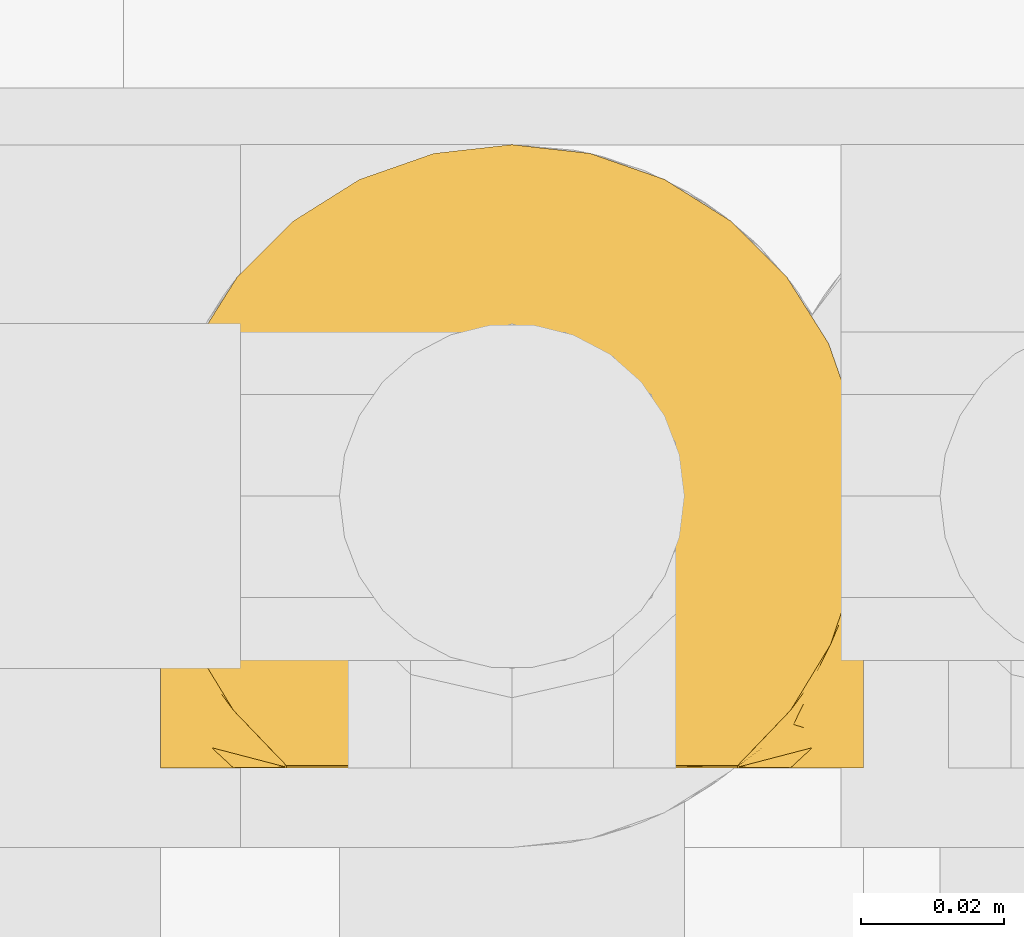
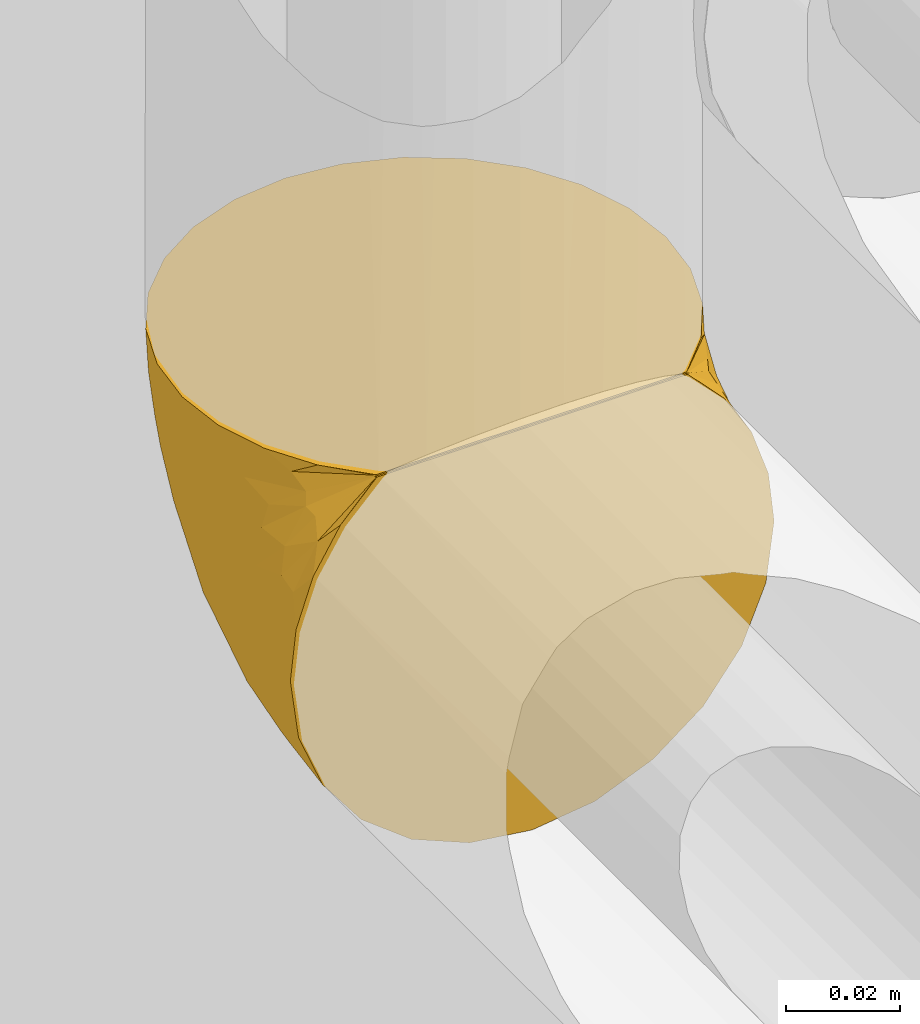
# One storey, part 53 of 94: 1 covering.
"""IFC2X3 building model written with IfcOpenShell, lengths in millimetres."""

import ifcopenshell
import ifcopenshell.guid

model = None  # the IFC model being written
_history = None  # IfcOwnerHistory: only IFC2X3 demands one
_inside = {}  # id of a spatial element -> (the spatial element, [elements in it])
_under = {}  # id of a project, library or spatial element -> (it, [spatial elements below it])
_declared = {}  # id of a project -> (the project, [libraries it declares])
_typed = {}  # id of a type object -> (the type object, [elements of that type])
_made_of = {}  # id of a material, layer set ... -> (it, [elements and type objects made of it])


def new_model(schema):
    """Start an empty IFC model of exactly this schema.

    Asked for "IFC4X3", IfcOpenShell would pick the latest addendum, in which some entities
    have other attributes; the version numbers below select the first issue.
    IFC2X3 requires an IfcOwnerHistory on every rooted entity: one is made here for all.
    """
    global model, _history
    if schema == "IFC4X3":
        model = ifcopenshell.file(schema_version=(4, 3, 0, 0))
    else:
        model = ifcopenshell.file(schema=schema)
    _inside.clear()
    _under.clear()
    _declared.clear()
    _typed.clear()
    _made_of.clear()
    _history = None
    if model.schema == "IFC2X3":
        org = make("IfcOrganization", Name="unknown")
        user = make(
            "IfcPersonAndOrganization",
            ThePerson=make("IfcPerson", FamilyName="unknown"),
            TheOrganization=org,
        )
        app = make(
            "IfcApplication",
            ApplicationDeveloper=org,
            Version="unknown",
            ApplicationFullName="unknown",
            ApplicationIdentifier="unknown",
        )
        _history = make(
            "IfcOwnerHistory",
            OwningUser=user,
            OwningApplication=app,
            ChangeAction="ADDED",
            CreationDate=0,
        )
    return model


def make(cls, **values):
    """One entity of the class cls with the attributes given. An attribute that is None is left unset."""
    return model.create_entity(
        cls, **{name: value for name, value in values.items() if value is not None}
    )


def entity(cls, *values):
    """Any entity or typed value of the class cls, its attributes in the order of the schema. None: left unset."""
    e = model.create_entity(cls)
    for i, value in enumerate(values):
        if value is not None:
            e[i] = value
    return e


def rooted(cls, **values):
    """An entity with a GlobalId (a new one), such as an element, a storey or a relation."""
    return make(cls, GlobalId=ifcopenshell.guid.new(), OwnerHistory=_history, **values)


def si_unit(unit_type, name, prefix=None):
    """IfcSIUnit, for example si_unit("LENGTHUNIT", "METRE", prefix="MILLI")."""
    return make("IfcSIUnit", UnitType=unit_type, Prefix=prefix, Name=name)


def converted_unit(unit_type, name, factor, base, dimensions=None, offset=None):
    """IfcConversionBasedUnit, such as the inch: factor (a typed value) times the base unit."""
    return make(
        "IfcConversionBasedUnit"
        if offset is None
        else "IfcConversionBasedUnitWithOffset",
        ConversionOffset=offset,
        Dimensions=None
        if dimensions is None
        else entity("IfcDimensionalExponents", *dimensions),
        UnitType=unit_type,
        Name=name,
        ConversionFactor=make(
            "IfcMeasureWithUnit", ValueComponent=factor, UnitComponent=base
        ),
    )


def derived_unit(unit_type, elements):
    """IfcDerivedUnit: a product of units, each with its exponent."""
    return make(
        "IfcDerivedUnit",
        Elements=[
            make("IfcDerivedUnitElement", Unit=unit, Exponent=power)
            for unit, power in elements
        ],
        UnitType=unit_type,
    )


def assignment(units):
    """IfcUnitAssignment: the units of a project."""
    return None if units is None else make("IfcUnitAssignment", Units=units)


def point(xyz):
    """IfcCartesianPoint."""
    return None if xyz is None else make("IfcCartesianPoint", Coordinates=xyz)


def direction(xyz):
    """IfcDirection."""
    return None if xyz is None else make("IfcDirection", DirectionRatios=xyz)


def frame(location, z_axis=None, x_axis=None):
    """IfcAxis2Placement3D, a coordinate frame: its origin and axes. An axis left out is left unset."""
    return make(
        "IfcAxis2Placement3D",
        Location=point(location),
        Axis=direction(z_axis),
        RefDirection=direction(x_axis),
    )


def origin():
    """The frame at (0, 0, 0) with its axes left unset."""
    return frame((0.0, 0.0, 0.0))


def place(relative_to, where):
    """IfcLocalPlacement: puts the frame where relative to a parent placement (None: the world)."""
    return make(
        "IfcLocalPlacement", PlacementRelTo=relative_to, RelativePlacement=where
    )


def context(
    kind, dimensions, precision=None, world=None, true_north=None, identifier=None
):
    """IfcGeometricRepresentationContext, for example the 3D "Model" context."""
    return make(
        "IfcGeometricRepresentationContext",
        ContextIdentifier=identifier,
        ContextType=kind,
        CoordinateSpaceDimension=dimensions,
        Precision=precision,
        WorldCoordinateSystem=world,
        TrueNorth=true_north,
    )


def subcontext(parent, identifier, kind, view, scale=None):
    """IfcGeometricRepresentationSubContext, for example "Body" below "Model"."""
    return make(
        "IfcGeometricRepresentationSubContext",
        ContextIdentifier=identifier,
        ContextType=kind,
        ParentContext=parent,
        TargetScale=scale,
        TargetView=view,
    )


def project(units=None, contexts=None):
    """IfcProject with its units and contexts."""
    return rooted(
        "IfcProject",
        Name="project",
        RepresentationContexts=contexts,
        UnitsInContext=assignment(units),
    )


def spatial(cls, under=None, at=None, **own):
    """A site, building, storey or space (cls), placed at a placement, below another one or the project."""
    s = rooted(cls, ObjectPlacement=at, **own)
    if under is not None:
        _under.setdefault(under.id(), (under, []))[1].append(s)
    return s


def faces_of(points, faces, orient=None, outer=None):
    """IfcFace entities. A face is a list of loops; a loop is a list of indices into points, from 0.

    orient and outer hold one flag for each loop. By default every Orientation is true, the
    first loop of a face is its IfcFaceOuterBound and the others are IfcFaceBound.
    """
    made = []
    for i, loops in enumerate(faces):
        bounds = []
        for j, loop in enumerate(loops):
            is_outer = j == 0 if outer is None else outer[i][j]
            bounds.append(
                make(
                    "IfcFaceOuterBound" if is_outer else "IfcFaceBound",
                    Bound=make("IfcPolyLoop", Polygon=[points[k] for k in loop]),
                    Orientation=True if orient is None else orient[i][j],
                )
            )
        made.append(make("IfcFace", Bounds=bounds))
    return made


def faceted_brep(points, faces, orient=None, outer=None, voids=None):
    """IfcFacetedBrep: a solid bounded by flat faces; with voids (closed shells), ...WithVoids."""
    shared = [point(p) for p in points]
    hull = make("IfcClosedShell", CfsFaces=faces_of(shared, faces, orient, outer))
    if voids is None:
        return make("IfcFacetedBrep", Outer=hull)
    return make(
        "IfcFacetedBrepWithVoids",
        Outer=hull,
        Voids=[
            make(cls, CfsFaces=faces_of(shared, fs, o, b)) for cls, fs, o, b in voids
        ],
    )


def shape(context_of_items, identifier, shape_type, items):
    """IfcShapeRepresentation: the items that make up one representation, for example the "Body"."""
    return make(
        "IfcShapeRepresentation",
        ContextOfItems=context_of_items,
        RepresentationIdentifier=identifier,
        RepresentationType=shape_type,
        Items=items,
    )


def material(Name=None, Category=None):
    """IfcMaterial."""
    return make("IfcMaterial", Name=Name, Category=Category)


def made_of(thing, what):
    """Note that an element or type object is made of a material, layer set ...; save() writes the relation."""
    if what is not None:
        _made_of.setdefault(what.id(), (what, []))[1].append(thing)
    return thing


def element(
    cls,
    number,
    at=None,
    inside=None,
    cuts=None,
    type_object=None,
    material=None,
    context=None,
    identifier="Body",
    shape_type=None,
    held_by="IfcProductDefinitionShape",
    body=None,
    shapes=None,
    **own,
):
    """One element of the class cls, such as IfcWall. Its Tag is "e" and its number.

    at: its placement. inside: the storey or other place that contains it. cuts: it is an
    opening in that element (IfcRelVoidsElement). A single representation is given by context,
    identifier, shape_type and body (its items); several are given by shapes. held_by: the class
    of the entity that holds the representations. save() writes the other relations.
    """
    e = rooted(cls, Tag="e%d" % number, ObjectPlacement=at, **own)
    if body is not None:
        shapes = [shape(context, identifier, shape_type, body)]
    if shapes is not None:
        e.Representation = make(held_by, Representations=shapes)
    if inside is not None:
        _inside.setdefault(inside.id(), (inside, []))[1].append(e)
    if cuts is not None:
        rooted(
            "IfcRelVoidsElement", RelatingBuildingElement=cuts, RelatedOpeningElement=e
        )
    if type_object is not None:
        _typed.setdefault(type_object.id(), (type_object, []))[1].append(e)
    return made_of(e, material)


def aggregate(whole, parts):
    """IfcRelAggregates: a whole, such as a stair, and the parts it consists of."""
    return rooted("IfcRelAggregates", RelatingObject=whole, RelatedObjects=parts)


def save(model, path):
    """Write the relations noted so far, then the file.

    IfcRelAggregates (storeys below a building ...), IfcRelContainedInSpatialStructure (elements
    in a storey), IfcRelDefinesByType, IfcRelAssociatesMaterial and IfcRelDeclares: one each for
    every whole, place, type object, material and project.
    """
    for whole, parts in _under.values():
        aggregate(whole, parts)
    for where, things in _inside.values():
        rooted(
            "IfcRelContainedInSpatialStructure",
            RelatedElements=things,
            RelatingStructure=where,
        )
    for kind, things in _typed.values():
        rooted("IfcRelDefinesByType", RelatedObjects=things, RelatingType=kind)
    for what, things in _made_of.values():
        rooted("IfcRelAssociatesMaterial", RelatedObjects=things, RelatingMaterial=what)
    for by, libraries in _declared.values():
        rooted("IfcRelDeclares", RelatingContext=by, RelatedDefinitions=libraries)
    model.write(path)


model = new_model("IFC2X3")

# Units and contexts
model_context = context("Model", 3, precision=0.01, world=origin(), true_north=direction((6.123031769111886e-17, 1.0)))
body_context = subcontext(model_context, "Body", "Model", "MODEL_VIEW")
ifc_project = project(units=[si_unit("LENGTHUNIT", "METRE", prefix="MILLI"), si_unit("AREAUNIT", "SQUARE_METRE"), si_unit("VOLUMEUNIT", "CUBIC_METRE"), converted_unit("PLANEANGLEUNIT", "DEGREE", entity("IfcRatioMeasure", 0.017453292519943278), si_unit("PLANEANGLEUNIT", "RADIAN"), dimensions=[0, 0, 0, 0, 0, 0, 0]), si_unit("MASSUNIT", "GRAM", prefix="KILO"), derived_unit("MASSDENSITYUNIT", [(si_unit("MASSUNIT", "GRAM", prefix="KILO"), 1), (si_unit("LENGTHUNIT", "METRE"), -3)]), derived_unit("IONCONCENTRATIONUNIT", [(si_unit("MASSUNIT", "GRAM", prefix="KILO"), 1), (si_unit("LENGTHUNIT", "METRE"), -3)]), derived_unit("MOMENTOFINERTIAUNIT", [(si_unit("LENGTHUNIT", "METRE"), 4)]), si_unit("TIMEUNIT", "SECOND"), si_unit("FREQUENCYUNIT", "HERTZ"), si_unit("THERMODYNAMICTEMPERATUREUNIT", "DEGREE_CELSIUS"), derived_unit("THERMALTRANSMITTANCEUNIT", [(si_unit("MASSUNIT", "GRAM", prefix="KILO"), 1), (si_unit("THERMODYNAMICTEMPERATUREUNIT", "KELVIN"), -1), (si_unit("TIMEUNIT", "SECOND"), -3)]), derived_unit("THERMALCONDUCTANCEUNIT", [(si_unit("MASSUNIT", "GRAM", prefix="KILO"), 1), (si_unit("THERMODYNAMICTEMPERATUREUNIT", "KELVIN"), -1), (si_unit("TIMEUNIT", "SECOND"), -3), (si_unit("LENGTHUNIT", "METRE"), 1)]), derived_unit("VOLUMETRICFLOWRATEUNIT", [(si_unit("LENGTHUNIT", "METRE"), 3), (si_unit("TIMEUNIT", "SECOND"), -1)]), derived_unit("MASSFLOWRATEUNIT", [(si_unit("MASSUNIT", "GRAM", prefix="KILO"), 1), (si_unit("TIMEUNIT", "SECOND"), -1)]), derived_unit("ROTATIONALFREQUENCYUNIT", [(si_unit("TIMEUNIT", "SECOND"), -1)]), si_unit("ELECTRICCURRENTUNIT", "AMPERE"), si_unit("ELECTRICVOLTAGEUNIT", "VOLT"), si_unit("POWERUNIT", "WATT"), si_unit("FORCEUNIT", "NEWTON", prefix="KILO"), si_unit("ILLUMINANCEUNIT", "LUX"), si_unit("LUMINOUSFLUXUNIT", "LUMEN"), si_unit("LUMINOUSINTENSITYUNIT", "CANDELA"), derived_unit("USERDEFINED", [(si_unit("MASSUNIT", "GRAM", prefix="KILO"), -1), (si_unit("LENGTHUNIT", "METRE"), -2), (si_unit("TIMEUNIT", "SECOND"), 3), (si_unit("LUMINOUSFLUXUNIT", "LUMEN"), 1)]), derived_unit("USERDEFINED", [(si_unit("MASSUNIT", "GRAM", prefix="KILO"), 1), (si_unit("TIMEUNIT", "SECOND"), -3), (si_unit("LENGTHUNIT", "METRE"), 3), (si_unit("ELECTRICCURRENTUNIT", "AMPERE"), -2)]), derived_unit("SOUNDPOWERUNIT", [(si_unit("MASSUNIT", "GRAM", prefix="KILO"), 1), (si_unit("TIMEUNIT", "SECOND"), -3), (si_unit("LENGTHUNIT", "METRE"), 2)]), derived_unit("SOUNDPRESSUREUNIT", [(si_unit("MASSUNIT", "GRAM", prefix="KILO"), 1), (si_unit("LENGTHUNIT", "METRE"), -1), (si_unit("TIMEUNIT", "SECOND"), -2)]), derived_unit("LINEARVELOCITYUNIT", [(si_unit("LENGTHUNIT", "METRE"), 1), (si_unit("TIMEUNIT", "SECOND"), -1)]), si_unit("PRESSUREUNIT", "PASCAL"), derived_unit("USERDEFINED", [(si_unit("MASSUNIT", "GRAM", prefix="KILO"), 1), (si_unit("LENGTHUNIT", "METRE"), -2), (si_unit("TIMEUNIT", "SECOND"), -2)]), derived_unit("LINEARFORCEUNIT", [(si_unit("MASSUNIT", "GRAM", prefix="KILO"), 1), (si_unit("TIMEUNIT", "SECOND"), -2)]), derived_unit("PLANARFORCEUNIT", [(si_unit("MASSUNIT", "GRAM", prefix="KILO"), 1), (si_unit("LENGTHUNIT", "METRE"), -1), (si_unit("TIMEUNIT", "SECOND"), -2)]), derived_unit("SPECIFICHEATCAPACITYUNIT", [(si_unit("THERMODYNAMICTEMPERATUREUNIT", "KELVIN"), -1), (si_unit("LENGTHUNIT", "METRE"), 2), (si_unit("TIMEUNIT", "SECOND"), -2)]), derived_unit("HEATINGVALUEUNIT", [(si_unit("LENGTHUNIT", "METRE"), 2), (si_unit("TIMEUNIT", "SECOND"), -2)]), derived_unit("VAPORPERMEABILITYUNIT", [(si_unit("LENGTHUNIT", "METRE"), -1), (si_unit("TIMEUNIT", "SECOND"), 1)]), derived_unit("DYNAMICVISCOSITYUNIT", [(si_unit("MASSUNIT", "GRAM", prefix="KILO"), 1), (si_unit("TIMEUNIT", "SECOND"), -1), (si_unit("LENGTHUNIT", "METRE"), -1)]), derived_unit("THERMALEXPANSIONCOEFFICIENTUNIT", [(si_unit("THERMODYNAMICTEMPERATUREUNIT", "KELVIN"), -1)]), derived_unit("MODULUSOFELASTICITYUNIT", [(si_unit("MASSUNIT", "GRAM", prefix="KILO"), 1), (si_unit("LENGTHUNIT", "METRE"), -1), (si_unit("TIMEUNIT", "SECOND"), -2)]), derived_unit("ISOTHERMALMOISTURECAPACITYUNIT", [(si_unit("LENGTHUNIT", "METRE"), 3), (si_unit("MASSUNIT", "GRAM", prefix="KILO"), -1)]), derived_unit("MOISTUREDIFFUSIVITYUNIT", [(si_unit("TIMEUNIT", "SECOND"), -1), (si_unit("LENGTHUNIT", "METRE"), 2)])], contexts=[model_context])

# Site, building, storey
site_placement = place(None, origin())
site = spatial("IfcSite", under=ifc_project, at=site_placement, Name="Default", CompositionType="ELEMENT")
building_placement = place(site_placement, origin())
building = spatial("IfcBuilding", under=site, at=building_placement, CompositionType="ELEMENT")
storey_placement = place(building_placement, origin())
storey = spatial("IfcBuildingStorey", under=building, at=storey_placement, Name="Niveau 0", CompositionType="ELEMENT", Elevation=0.0)

# Covering
ifc_material = material(Name="Isolation - Laine minérale")
covering_placement = place(storey_placement, frame((-7061.485954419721, 9987.250352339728, 448.25472776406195)))
element("IfcCovering", 1, at=covering_placement, inside=storey, material=ifc_material, Name="Isolation des canalisations:Laine minérale", ObjectType="Isolation des canalisations:Laine minérale", PredefinedType="INSULATION", context=body_context, shape_type="Brep", body=[
    faceted_brep([(19.19437336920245, 1.908891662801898, 88.74527223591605), (21.638642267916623, 1.908891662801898, 88.74527223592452), (23.415694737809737, 1.908891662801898, 88.74527223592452), (25.192747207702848, 1.908891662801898, 88.74527223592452), (26.692340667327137, 1.908891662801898, 88.74527223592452), (28.191934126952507, 1.908891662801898, 88.74527223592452), (31.191121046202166, 1.908891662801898, 88.74527223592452), (34.19030796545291, 1.908891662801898, 88.74527223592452), (37.18949488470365, 1.908891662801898, 88.74527223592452), (40.18868180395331, 1.908891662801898, 88.74527223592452), (41.688275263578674, 1.908891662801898, 88.74527223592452), (43.18786872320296, 1.908891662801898, 88.74527223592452), (45.63213762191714, 1.908891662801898, 88.74527223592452), (48.07640652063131, 1.908891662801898, 88.74527223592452), (50.52067541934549, 1.908891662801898, 88.74527223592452), (52.96494431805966, 1.908891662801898, 88.74527223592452), (55.40921321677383, 1.908891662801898, 88.74527223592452), (57.853482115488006, 1.908891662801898, 88.74527223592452), (60.29775101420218, 1.908891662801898, 88.74527223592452), (62.742019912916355, 1.908891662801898, 88.74527223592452), (65.18628881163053, 1.908891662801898, 88.74527223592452), (67.6305577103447, 1.908891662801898, 88.74527223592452), (70.07482660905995, 1.908891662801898, 88.74527223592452), (72.51909550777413, 1.908891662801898, 88.74527223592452), (74.96336440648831, 1.908891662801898, 88.74527223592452), (77.4076333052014, 1.908891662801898, 88.74527223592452), (79.85190220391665, 1.908891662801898, 88.74527223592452), (82.29617110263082, 1.908891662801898, 88.74527223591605), (89.71827412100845, 9.648191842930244, 88.74527223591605), (95.2836857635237, 18.809406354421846, 88.74527223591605), (98.73008326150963, 28.95664399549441, 88.74527223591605), (99.8952722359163, 39.59527223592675, 88.74527223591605), (98.66173151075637, 50.53764083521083, 88.74527223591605), (95.02415814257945, 60.928409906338, 88.74527223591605), (89.1663101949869, 70.24729243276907, 88.74527223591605), (81.38263886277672, 78.02799613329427, 88.74527223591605), (72.06354573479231, 83.88131648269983, 88.74527223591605), (61.67593083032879, 87.51440414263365, 88.74527223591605), (50.74527223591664, 88.74527223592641, 88.74527223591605), (39.802903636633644, 87.51173151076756, 88.74527223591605), (29.412134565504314, 83.87415814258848, 88.74527223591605), (20.093252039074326, 78.0163101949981, 88.74527223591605), (12.312548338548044, 70.23263886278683, 88.74527223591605), (6.459227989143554, 60.91354573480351, 88.74527223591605), (2.8261403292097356, 50.52593083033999, 88.74527223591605), (1.5952722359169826, 39.59527223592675, 88.74527223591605), (2.765001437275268, 28.936186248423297, 88.74527223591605), (6.216868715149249, 18.787971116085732, 88.74527223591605), (11.785042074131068, 9.631578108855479, 88.74527223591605), (19.19437336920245, 1.5952722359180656, 88.43165280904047), (11.777056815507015, 1.5952722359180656, 80.69858068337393), (6.211862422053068, 1.5952722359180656, 71.54185633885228), (2.763298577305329, 1.5952722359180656, 61.39669016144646), (1.5952722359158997, 1.5952722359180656, 50.74527223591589), (3.2700178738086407, 1.5952722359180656, 38.024316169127), (8.180123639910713, 1.5952722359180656, 26.17027223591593), (15.990973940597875, 1.5952722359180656, 15.99097394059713), (26.17027223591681, 1.5952722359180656, 8.180123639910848), (38.0243161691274, 1.5952722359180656, 3.270017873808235), (50.74527223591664, 1.5952722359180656, 1.5952722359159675), (63.46622830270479, 1.5952722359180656, 3.270017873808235), (75.32027223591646, 1.5952722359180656, 8.180123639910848), (85.4995705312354, 1.5952722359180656, 15.99097394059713), (93.31042083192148, 1.5952722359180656, 26.17027223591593), (98.22052659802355, 1.5952722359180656, 38.024316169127), (99.8952722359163, 1.5952722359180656, 50.74527223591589), (98.72724589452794, 1.5952722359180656, 61.39669016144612), (95.2786820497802, 1.5952722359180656, 71.54185633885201), (89.71348765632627, 1.5952722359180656, 80.69858068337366), (82.29617110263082, 1.5952722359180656, 88.43165280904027), (79.85190220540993, 1.5952722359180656, 88.43165280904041), (78.35230874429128, 1.5952722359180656, 88.43165280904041), (76.38037756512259, 1.5952722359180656, 88.43165280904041), (74.40844638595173, 1.5952722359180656, 88.43165280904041), (72.43651520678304, 1.5952722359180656, 88.43165280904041), (70.46458402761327, 1.5952722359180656, 88.43165280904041), (68.4926528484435, 1.5952722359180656, 88.43165280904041), (66.52072166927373, 1.5952722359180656, 88.43165280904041), (64.54879049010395, 1.5952722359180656, 88.43165280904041), (62.57685931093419, 1.5952722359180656, 88.43165280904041), (60.60492813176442, 1.5952722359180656, 88.43165280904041), (58.632996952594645, 1.5952722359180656, 88.43165280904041), (56.66106577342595, 1.5952722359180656, 88.43165280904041), (54.6891345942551, 1.5952722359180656, 88.43165280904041), (52.71720341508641, 1.5952722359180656, 88.43165280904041), (50.74527223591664, 1.5952722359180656, 88.43165280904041), (48.773341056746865, 1.5952722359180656, 88.43165280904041), (46.80140987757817, 1.5952722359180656, 88.43165280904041), (44.82947869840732, 1.5952722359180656, 88.43165280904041), (42.85754751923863, 1.5952722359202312, 88.43165280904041), (40.88561634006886, 1.5952722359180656, 88.43165280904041), (38.913685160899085, 1.5952722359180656, 88.43165280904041), (36.94175398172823, 1.5952722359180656, 88.43165280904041), (34.96982280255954, 1.5952722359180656, 88.43165280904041), (31.970635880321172, 1.5952722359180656, 88.43165280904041), (28.971448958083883, 1.5952722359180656, 88.43165280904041), (26.527180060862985, 1.5952722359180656, 88.43165280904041), (24.082911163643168, 1.5952722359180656, 88.43165280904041), (21.63864226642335, 1.5952722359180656, 88.43165280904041), (53.7533397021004, 1.8096432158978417, 88.51635690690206), (51.832765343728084, 1.818436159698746, 88.52492022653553), (61.47290163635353, 1.8193226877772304, 88.52582169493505), (63.56282540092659, 1.8127644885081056, 88.51932032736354), (48.00102702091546, 1.7996191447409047, 88.50736577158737), (77.2499939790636, 1.8054799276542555, 88.51252801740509), (80.6991383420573, 1.8492387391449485, 88.56126636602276), (42.43807145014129, 1.8224415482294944, 88.52905186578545), (22.860776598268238, 1.8170346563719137, 88.52350980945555), (24.700216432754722, 1.815062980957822, 88.5215555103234), (71.37008955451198, 1.824011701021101, 88.53071361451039), (73.40383885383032, 1.8138012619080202, 88.52032288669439), (44.41000264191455, 1.8358544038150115, 88.54408236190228), (37.92771907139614, 1.8108976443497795, 88.51753811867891), (39.81308540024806, 1.8073683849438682, 88.51424763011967), (35.95578792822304, 1.8246911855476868, 88.53144031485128), (49.75930651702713, 1.8114022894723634, 88.51801699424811), (21.027574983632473, 1.814626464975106, 88.52112749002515), (55.67510065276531, 1.803895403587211, 88.51110665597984), (67.50668767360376, 1.803065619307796, 88.51037001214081), (65.61454699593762, 1.8078125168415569, 88.51465616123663), (34.10458092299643, 1.806281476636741, 88.51325446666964), (57.55217518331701, 1.8068444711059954, 88.51376773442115), (79.10210557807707, 1.8170346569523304, 88.52350981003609), (75.39441218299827, 1.8056127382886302, 88.51264803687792), (82.29617110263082, 1.8170346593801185, 88.52350981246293), (82.29617110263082, 1.845664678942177, 88.59262879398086), (82.29617110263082, 1.8742946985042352, 88.66174777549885), (19.19437336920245, 1.8170346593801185, 88.52350981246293), (19.19437336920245, 1.7479156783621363, 88.49487979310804), (19.19437336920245, 1.6787966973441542, 88.46624977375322), (32.212157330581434, 1.8305380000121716, 88.53789054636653), (69.4355922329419, 1.8101196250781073, 88.51680397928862), (46.24828797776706, 1.818076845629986, 88.52455691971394), (59.49061335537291, 1.8158402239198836, 88.52232177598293), (29.419252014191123, 1.8347511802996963, 88.54277043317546), (27.44213716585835, 1.8131030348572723, 88.51964668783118), (82.29617110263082, 1.6787966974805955, 88.46624977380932), (82.29617110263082, 1.7479156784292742, 88.49487979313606), (19.19437336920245, 1.8742946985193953, 88.66174777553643), (19.194373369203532, 1.8456646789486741, 88.59262879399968), (4.210283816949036, 5.119742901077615, 66.8453249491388), (8.74417984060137, 4.404433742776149, 76.59278810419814), (4.210283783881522, 9.262466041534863, 67.93076460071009), (9.955583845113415, 7.20765205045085, 79.77802179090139), (1.5952722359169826, 11.095272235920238, 53.290789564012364), (1.5952722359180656, 9.051642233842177, 52.74320055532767), (1.5952722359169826, 34.504237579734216, 69.74527223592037), (2.935497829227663, 23.945014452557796, 74.32039473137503), (4.213452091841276, 22.400140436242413, 81.07886680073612), (1.5952722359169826, 20.59527223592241, 55.83630689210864), (9.405305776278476, 9.666760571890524, 80.67264697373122), (9.963487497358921, 10.551623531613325, 83.13763204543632), (2.9356418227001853, 16.01945088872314, 66.39579772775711), (4.213452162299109, 23.48583853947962, 85.22115378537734), (8.750654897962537, 13.737180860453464, 85.93765126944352), (5.690627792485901, 10.69142511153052, 72.79903813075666), (1.5952722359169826, 37.59734395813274, 81.28890239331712), (1.5952722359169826, 37.04975490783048, 79.24527223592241), (4.482619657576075, 16.728859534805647, 73.61168502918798), (1.5952722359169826, 27.549754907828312, 62.79078956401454), (5.766057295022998, 16.460659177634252, 78.2689853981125), (2.6117250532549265, 15.0114077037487, 42.71659351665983), (2.6575317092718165, 24.429802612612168, 46.339103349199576), (11.131578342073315, 36.49293031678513, 31.440845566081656), (20.824647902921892, 31.204032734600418, 17.672829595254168), (11.751954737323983, 19.174422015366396, 23.1389879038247), (5.33659242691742, 23.335091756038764, 36.260702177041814), (5.33659286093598, 11.460031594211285, 32.79943692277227), (50.74527223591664, 52.820756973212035, 18.239441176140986), (50.74527223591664, 28.526103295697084, 5.860696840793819), (40.3397395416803, 36.46534309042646, 10.09253095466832), (9.12424327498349, 64.55560047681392, 76.48910815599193), (4.35104531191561, 54.09636170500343, 75.17525932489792), (32.6469542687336, 60.777662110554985, 29.56288601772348), (23.76890934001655, 59.56986252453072, 34.954708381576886), (35.61531809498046, 75.04832177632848, 46.443169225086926), (41.69613385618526, 19.026686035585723, 4.214063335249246), (30.50981773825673, 43.099517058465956, 17.108860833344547), (21.748430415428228, 46.83665143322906, 25.59315874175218), (20.824647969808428, 15.050691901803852, 12.936813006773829), (31.9363827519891, 23.237814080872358, 8.19337466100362), (15.984346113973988, 53.24134352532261, 37.51142897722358), (9.50970334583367, 45.82536759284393, 41.46157905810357), (11.405769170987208, 56.63576814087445, 49.733323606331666), (3.723532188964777, 46.28884977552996, 61.570591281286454), (9.124242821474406, 60.29646320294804, 62.89209880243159), (15.984347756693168, 72.02820629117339, 70.54017915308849), (50.74527223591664, 84.47984763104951, 61.81444117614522), (34.505351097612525, 83.29913826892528, 67.62492254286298), (18.53593481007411, 64.72607481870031, 48.02305876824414), (24.58819413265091, 74.45362859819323, 56.65671676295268), (24.58819389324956, 79.74013519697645, 73.5335710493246), (39.07585882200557, 51.83676030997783, 19.26196392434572), (42.346184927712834, 64.99536385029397, 30.008052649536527), (2.5632520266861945, 37.17704034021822, 56.967223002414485), (50.74527223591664, 72.10110329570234, 37.51978749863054), (4.72244931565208, 37.64584570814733, 46.87511479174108), (69.55416102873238, 32.16465220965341, 11.140369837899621), (59.58510784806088, 18.639631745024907, 4.095656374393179), (59.865425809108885, 35.76621119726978, 9.50247429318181), (66.13789702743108, 47.842493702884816, 17.812384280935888), (69.55416221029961, 15.278189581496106, 6.4665656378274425), (85.49332197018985, 65.81540325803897, 54.54188370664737), (78.98858976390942, 64.55420181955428, 42.32008170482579), (76.8874308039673, 74.46231326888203, 56.65317707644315), (85.49294527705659, 53.25075234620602, 37.502095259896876), (78.28666517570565, 54.6271823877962, 30.584563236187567), (97.13479117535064, 54.1090356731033, 75.17052823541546), (98.9530358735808, 19.80250294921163, 44.78912737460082), (99.8952722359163, 20.59527223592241, 55.83630689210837), (99.8952722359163, 11.095272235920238, 53.290789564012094), (66.97173870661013, 83.30424504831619, 67.62586672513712), (80.66589652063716, 21.099683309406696, 14.26340359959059), (92.35692696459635, 60.310032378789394, 62.88589281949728), (92.35692651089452, 64.57029925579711, 76.486535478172), (89.7385894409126, 13.46514039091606, 21.869885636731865), (96.15395178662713, 16.335810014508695, 33.88211097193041), (79.62483877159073, 41.93007422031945, 22.251999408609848), (89.73859028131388, 27.715013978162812, 26.04782376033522), (59.50815922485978, 59.11976772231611, 24.3292880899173), (68.83452868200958, 60.78019907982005, 29.560349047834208), (99.01263503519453, 10.513874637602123, 42.321432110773), (76.88743104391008, 79.74926997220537, 73.53143463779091), (65.85652255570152, 75.05329716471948, 46.439690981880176), (85.49294363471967, 72.04103767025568, 70.53686254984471), (97.76388503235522, 46.290673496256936, 61.55381762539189), (99.8952722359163, 34.504237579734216, 69.74527223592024), (98.78930951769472, 36.105181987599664, 54.85547791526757), (99.8952722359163, 27.549754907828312, 62.79078956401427), (99.8952722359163, 37.59734395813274, 81.28890239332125), (99.8952722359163, 37.04975490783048, 79.24527223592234), (91.50386042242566, 41.92842909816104, 37.177632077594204), (96.4268312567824, 26.19749743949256, 38.287459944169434), (93.14991945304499, 50.23414181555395, 48.93950707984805), (99.08337182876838, 27.449810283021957, 49.6193224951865), (86.0910755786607, 42.66776613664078, 29.42376899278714), (96.67816905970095, 34.950986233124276, 44.39993285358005), (97.2802602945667, 9.262466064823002, 67.93076584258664), (95.72662397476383, 12.074879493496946, 73.8762902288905), (98.5546584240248, 16.019815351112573, 66.3972519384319), (97.28026045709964, 5.1197430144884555, 66.8453255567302), (92.74636428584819, 4.404433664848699, 76.59278866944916), (91.53641117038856, 7.207972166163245, 79.77567656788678), (90.11275627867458, 7.658564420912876, 82.68391989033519), (97.00519514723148, 16.723480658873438, 73.61706313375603), (91.54965419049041, 10.582773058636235, 83.12402653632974), (97.28427045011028, 22.422090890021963, 81.07735934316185), (97.28427059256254, 23.50719690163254, 85.22095110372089), (92.75147496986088, 13.756054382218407, 85.93466595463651), (98.55441347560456, 23.942836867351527, 74.32191718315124), (95.80583125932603, 17.556718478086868, 79.64839749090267)], [[[0, 1, 2, 3, 4, 5, 6, 7, 8, 9, 10, 11, 12, 13, 14, 15, 16, 17, 18, 19, 20, 21, 22, 23, 24, 25, 26, 27, 28, 29, 30, 31, 32, 33, 34, 35, 36, 37, 38, 39, 40, 41, 42, 43, 44, 45, 46, 47, 48]], [[49, 50, 51, 52, 53, 54, 55, 56, 57, 58, 59, 60, 61, 62, 63, 64, 65, 66, 67, 68, 69, 70, 71, 72, 73, 74, 75, 76, 77, 78, 79, 80, 81, 82, 83, 84, 85, 86, 87, 88, 89, 90, 91, 92, 93, 94, 95, 96, 97, 98]], [[99, 100, 84]], [[101, 102, 19]], [[86, 103, 87]], [[72, 71, 104]], [[105, 70, 69]], [[11, 10, 106]], [[2, 107, 108]], [[109, 74, 110]], [[12, 11, 111]], [[9, 112, 113]], [[108, 97, 96]], [[114, 93, 92]], [[103, 86, 115]], [[97, 107, 98]], [[107, 1, 116]], [[79, 102, 101]], [[99, 117, 16]], [[77, 118, 119]], [[120, 93, 114]], [[112, 91, 113]], [[89, 111, 106]], [[24, 23, 110]], [[107, 97, 108]], [[16, 117, 121]], [[92, 91, 112]], [[21, 119, 118]], [[85, 115, 86]], [[70, 105, 122]], [[72, 123, 73]], [[105, 124, 125, 126, 27]], [[116, 1, 0]], [[122, 71, 70]], [[25, 122, 26]], [[116, 127, 128, 129, 49]], [[110, 123, 24]], [[26, 122, 105]], [[120, 7, 130]], [[8, 114, 112]], [[114, 8, 7]], [[104, 123, 72]], [[92, 112, 114]], [[104, 122, 25]], [[8, 112, 9]], [[110, 73, 123]], [[20, 119, 21]], [[24, 123, 25]], [[75, 74, 109]], [[131, 76, 75]], [[118, 131, 21]], [[109, 110, 23]], [[109, 23, 22]], [[74, 73, 110]], [[123, 104, 25]], [[122, 104, 71]], [[10, 9, 113]], [[113, 90, 106]], [[88, 87, 132]], [[113, 106, 10]], [[77, 76, 118]], [[132, 111, 88]], [[106, 111, 11]], [[132, 12, 111]], [[88, 111, 89]], [[89, 106, 90]], [[113, 91, 90]], [[131, 118, 76]], [[22, 21, 131]], [[119, 20, 102]], [[131, 109, 22]], [[109, 131, 75]], [[79, 78, 102]], [[78, 119, 102]], [[78, 77, 119]], [[121, 81, 133]], [[20, 19, 102]], [[17, 121, 133]], [[80, 79, 101]], [[18, 101, 19]], [[132, 13, 12]], [[81, 80, 133]], [[13, 103, 115]], [[14, 13, 115]], [[87, 103, 132]], [[100, 115, 85]], [[15, 14, 100]], [[115, 100, 14]], [[16, 15, 99]], [[117, 82, 121]], [[100, 85, 84]], [[99, 83, 117]], [[82, 117, 83]], [[17, 16, 121]], [[83, 99, 84]], [[100, 99, 15]], [[18, 17, 133]], [[121, 82, 81]], [[133, 101, 18]], [[101, 133, 80]], [[134, 95, 94]], [[7, 120, 114]], [[132, 103, 13]], [[120, 94, 93]], [[94, 120, 130]], [[98, 107, 116]], [[108, 4, 3, 2]], [[5, 135, 134]], [[4, 135, 5]], [[134, 135, 95]], [[108, 96, 135]], [[108, 135, 4]], [[135, 96, 95]], [[134, 6, 5]], [[130, 6, 134]], [[26, 105, 27]], [[105, 69, 136, 137, 124]], [[98, 116, 49]], [[116, 0, 138, 139, 127]], [[2, 1, 107]], [[94, 130, 134]], [[6, 130, 7]], [[140, 141, 142]], [[143, 129, 128, 127]], [[52, 144, 145, 53]], [[146, 147, 148]], [[142, 149, 144]], [[150, 127, 151]], [[51, 140, 52]], [[142, 152, 149]], [[52, 140, 144]], [[129, 143, 141]], [[47, 46, 153]], [[148, 151, 154]], [[155, 141, 143]], [[151, 138, 154]], [[47, 153, 154]], [[0, 48, 138]], [[46, 45, 156, 157]], [[152, 155, 158]], [[159, 158, 147]], [[157, 148, 153]], [[47, 154, 48]], [[50, 49, 129]], [[50, 129, 141]], [[141, 51, 50]], [[160, 148, 147]], [[146, 148, 157]], [[138, 48, 154]], [[150, 158, 155]], [[151, 127, 139, 138]], [[141, 140, 51]], [[144, 140, 142]], [[157, 153, 46]], [[154, 153, 148]], [[149, 152, 159]], [[160, 147, 158]], [[147, 146, 159]], [[155, 152, 142]], [[159, 152, 158]], [[127, 150, 143]], [[160, 150, 151]], [[150, 160, 158]], [[148, 160, 151]], [[141, 155, 142]], [[155, 143, 150]], [[156, 45, 44]], [[161, 149, 162]], [[163, 164, 165]], [[166, 167, 161]], [[168, 169, 170]], [[55, 165, 56]], [[171, 172, 43]], [[173, 174, 175]], [[58, 176, 59]], [[173, 177, 178]], [[179, 57, 56]], [[55, 167, 165]], [[170, 180, 177]], [[57, 179, 180]], [[167, 55, 54]], [[181, 182, 183]], [[184, 146, 172]], [[172, 185, 184]], [[186, 185, 171]], [[186, 42, 41]], [[172, 146, 157, 156]], [[172, 44, 43]], [[173, 178, 174]], [[39, 187, 188]], [[189, 186, 190]], [[191, 186, 41]], [[175, 190, 188]], [[168, 192, 193]], [[189, 190, 174]], [[57, 180, 58]], [[41, 40, 191]], [[188, 40, 39]], [[39, 38, 187]], [[190, 191, 188]], [[159, 194, 162]], [[175, 187, 195]], [[177, 180, 164]], [[43, 42, 171]], [[176, 180, 170]], [[156, 44, 172]], [[163, 165, 166]], [[179, 165, 164]], [[54, 53, 145]], [[185, 189, 183]], [[184, 196, 194]], [[188, 191, 40]], [[186, 191, 190]], [[186, 171, 42]], [[172, 171, 185]], [[187, 175, 188]], [[193, 175, 195]], [[196, 163, 166]], [[163, 181, 178]], [[162, 166, 161]], [[184, 185, 183]], [[178, 177, 164]], [[177, 192, 170]], [[177, 173, 192]], [[176, 170, 169]], [[59, 176, 169]], [[58, 180, 176]], [[193, 192, 173]], [[168, 170, 192]], [[175, 193, 173]], [[168, 193, 195]], [[163, 178, 164]], [[184, 194, 146]], [[178, 181, 174]], [[189, 174, 181]], [[175, 174, 190]], [[183, 189, 181]], [[186, 189, 185]], [[182, 181, 163]], [[183, 182, 184]], [[163, 196, 182]], [[184, 182, 196]], [[165, 179, 56]], [[180, 179, 164]], [[161, 54, 145]], [[165, 167, 166]], [[54, 161, 167]], [[161, 145, 144, 149]], [[159, 162, 149]], [[196, 166, 162]], [[162, 194, 196]], [[146, 194, 159]], [[197, 198, 199]], [[59, 169, 198]], [[197, 199, 200]], [[198, 197, 201]], [[202, 203, 204]], [[61, 60, 201]], [[205, 206, 203]], [[33, 32, 207]], [[208, 209, 210]], [[187, 37, 211]], [[201, 212, 61]], [[213, 214, 207]], [[62, 215, 63]], [[63, 215, 216]], [[36, 211, 37]], [[217, 218, 212]], [[219, 220, 200]], [[216, 208, 221]], [[36, 35, 222]], [[63, 216, 64]], [[62, 61, 212]], [[211, 36, 222]], [[38, 37, 187]], [[217, 197, 200]], [[203, 223, 204]], [[35, 34, 224]], [[225, 213, 207]], [[204, 222, 224]], [[34, 33, 214]], [[204, 224, 202]], [[207, 226, 225]], [[227, 226, 228]], [[223, 211, 204]], [[214, 224, 34]], [[202, 224, 213]], [[32, 31, 229]], [[207, 229, 230, 226]], [[211, 223, 187]], [[218, 231, 232]], [[32, 229, 207]], [[205, 233, 231]], [[233, 213, 225]], [[217, 212, 197]], [[215, 212, 218]], [[228, 234, 227]], [[233, 205, 202]], [[208, 234, 209]], [[64, 221, 65]], [[235, 205, 231]], [[207, 214, 33]], [[224, 214, 213]], [[224, 222, 35]], [[211, 222, 204]], [[219, 223, 220]], [[187, 223, 195]], [[227, 233, 225]], [[234, 228, 209]], [[231, 233, 236]], [[221, 208, 210]], [[232, 208, 216]], [[65, 221, 210]], [[216, 221, 64]], [[233, 202, 213]], [[203, 202, 205]], [[205, 235, 206]], [[223, 203, 220]], [[200, 206, 217]], [[220, 203, 206]], [[232, 231, 236]], [[235, 218, 217]], [[212, 215, 62]], [[216, 215, 218]], [[218, 232, 216]], [[234, 232, 236]], [[232, 234, 208]], [[234, 236, 227]], [[233, 227, 236]], [[226, 227, 225]], [[198, 201, 60]], [[212, 201, 197]], [[59, 198, 60]], [[198, 169, 199]], [[169, 168, 199]], [[219, 200, 199]], [[219, 199, 168]], [[200, 220, 206]], [[168, 195, 219]], [[223, 219, 195]], [[218, 235, 231]], [[206, 235, 217]], [[66, 65, 210]], [[209, 237, 210]], [[238, 237, 239]], [[67, 240, 241]], [[242, 136, 241]], [[243, 137, 242]], [[243, 244, 245]], [[66, 240, 67]], [[136, 69, 68]], [[136, 68, 241]], [[246, 226, 230]], [[67, 241, 68]], [[210, 237, 240]], [[29, 247, 30]], [[209, 239, 237]], [[246, 247, 248]], [[30, 247, 230]], [[249, 250, 244]], [[239, 228, 244]], [[226, 246, 249]], [[250, 248, 245]], [[28, 27, 126]], [[237, 242, 241]], [[248, 29, 28]], [[28, 126, 248]], [[30, 230, 229, 31]], [[245, 126, 125]], [[126, 245, 248]], [[243, 124, 137]], [[210, 240, 66]], [[241, 240, 237]], [[248, 247, 29]], [[230, 247, 246]], [[226, 249, 228]], [[238, 239, 244]], [[239, 209, 228]], [[250, 249, 246]], [[228, 249, 244]], [[243, 242, 238]], [[136, 242, 137]], [[124, 243, 125]], [[125, 243, 245]], [[243, 238, 244]], [[237, 238, 242]], [[248, 250, 246]], [[244, 250, 245]]]),
])

save(model, "model.ifc")
